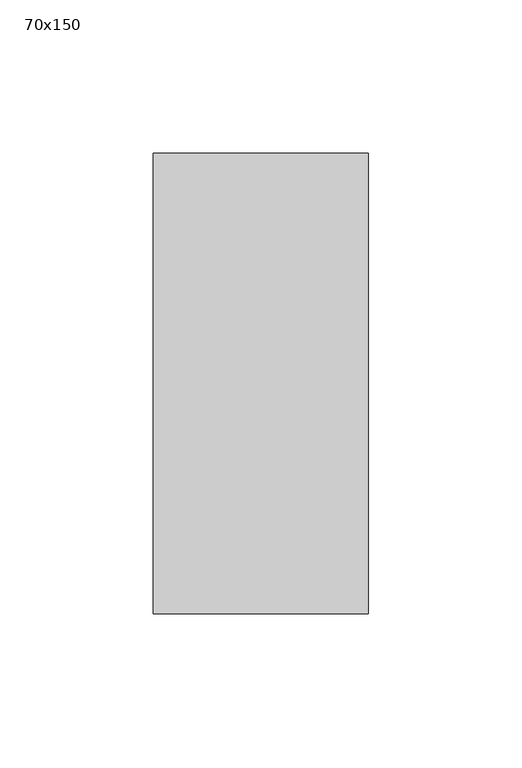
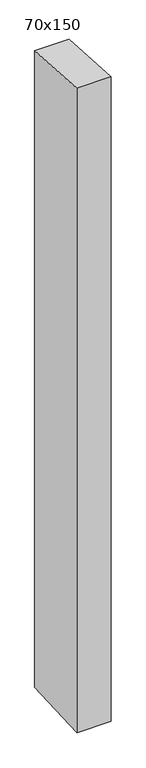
"""IFC4 building model written with IfcOpenShell, lengths in millimetres: member geometry, 長方形のマリオン : 70x150."""

from ifc_helpers import new_model, si_unit, frame, origin, place, context, project, spatial, polyline, outline, extrude, source, transform, mapped, element, save


def member_70x150_6c732e48(model_context):
    return source(origin(), model_context, "Body", "SweptSolid", [
        extrude(outline(polyline([(-75.0, 4.9473546), (75.0, -4.9473546), (75.0, -1384.6350535), (-75.0, -1392.1148042), (-75.0, 4.9473546)])), frame((-70.0, 0.0, 0.0), z_axis=(1.0, 0.0, 0.0), x_axis=(0.0, 1.0, 0.0)), (0.0, 0.0, 1.0), 70.0),
    ])


if __name__ == "__main__":
    model = new_model("IFC4")
    model_context = context("Model", 3, world=origin())
    ifc_project = project(units=[si_unit("LENGTHUNIT", "METRE", prefix="MILLI")], contexts=[model_context])
    site = spatial("IfcSite", under=ifc_project)
    building = spatial("IfcBuilding", under=site)
    placement = place(None, origin())
    member_70x150_shape = member_70x150_6c732e48(model_context)
    element("IfcMember", 1, ObjectType="長方形のマリオン : 70x150", at=placement, inside=building, context=model_context, shape_type="MappedRepresentation", body=[
        mapped(member_70x150_shape, transform((0.0, 0.0, 0.0), x_axis=(1.0, 0.0, 0.0), y_axis=(0.0, 1.0, 0.0), z_axis=(0.0, 0.0, 1.0))),
    ])
    save(model, "model.ifc")
